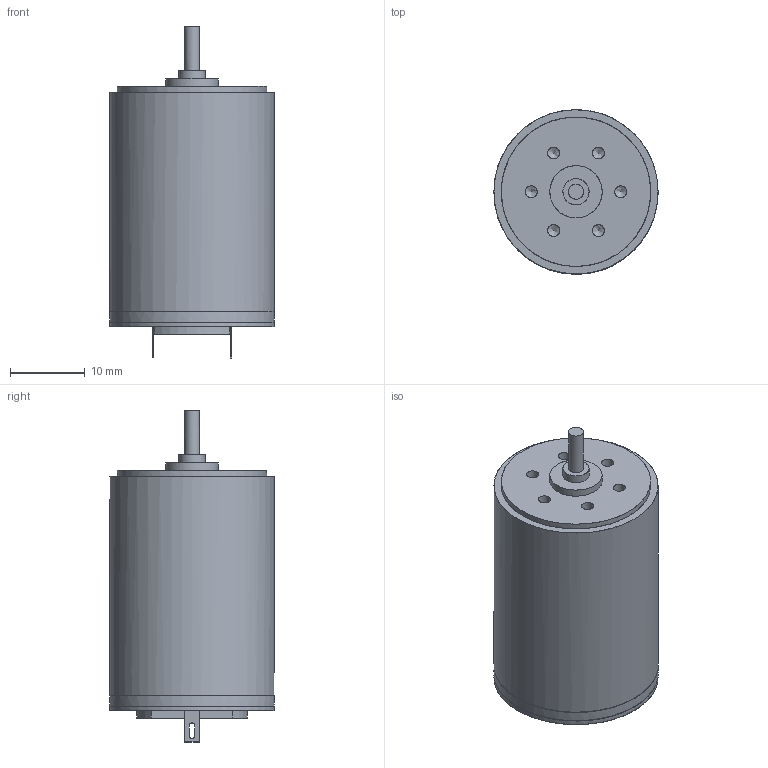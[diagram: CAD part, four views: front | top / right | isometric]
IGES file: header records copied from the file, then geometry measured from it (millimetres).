
Global section: file name: E:\WORK\MISC\DI\MOTORS\2011-11-25\2232USR.igs; native system: NX V7.5; preprocessor: SIEMENS PLM Software NX 7.5; date: 20111221.231439; units: millimetre
Bounding box: 22 x 22 x 44.5 mm (x, y, z)
Surface area: 3283.9 mm2 (no closed solid volume)
Topology: 0 solids, 0 shells, 52 faces, 468 edges, 509 vertices
Faces by surface type: bspline 52
